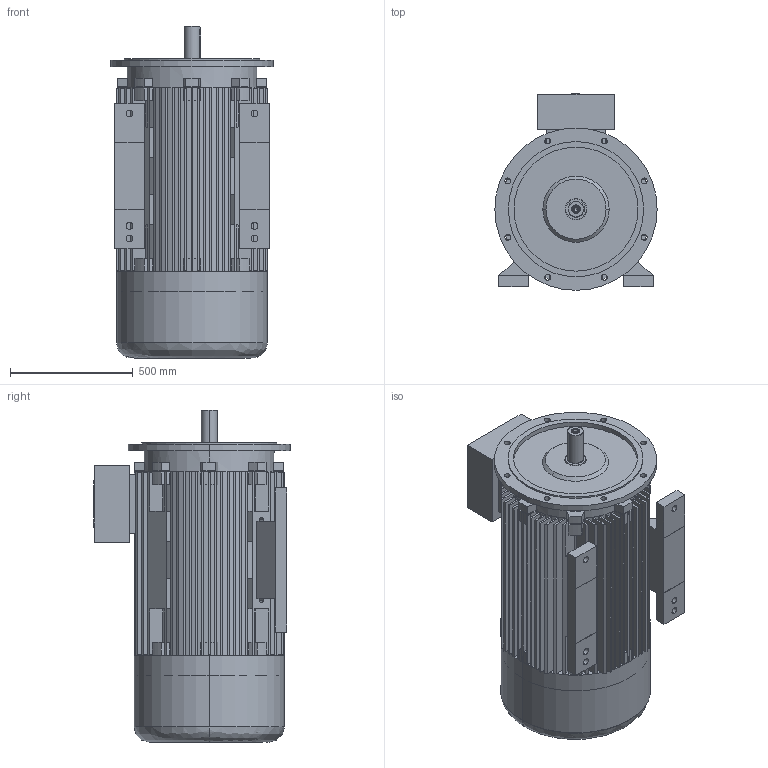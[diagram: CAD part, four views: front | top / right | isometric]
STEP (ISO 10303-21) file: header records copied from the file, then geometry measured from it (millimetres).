
FILE_DESCRIPTION (( 'STEP AP203' ), '1' );
FILE_NAME ('20.18382_C 7AZ 315LX -2 B35 STANDK.STEP', '2018-05-18T12:06:55', ( '' ), ( '' ), 'SwSTEP 2.0', 'SolidWorks 2017', '' );
FILE_SCHEMA (( 'CONFIG_CONTROL_DESIGN' ));
Length unit declared in the file: millimetre
Products named in the file (1): 20.18382_C 7AZ 315LX -2 B35 STANDK
Bounding box: 660 x 800 x 1350 mm (x, y, z)
Volume: 122246365.9 mm3; surface area: 11614845.5 mm2
Topology: 6 solids, 7 shells, 827 faces, 2222 edges, 1475 vertices
Faces by surface type: plane 663, cylinder 135, cone 16, bspline 13
Entity records: 26640 total; most frequent: CARTESIAN_POINT 5420, ORIENTED_EDGE 4440, DIRECTION 4312, EDGE_CURVE 2220, VECTOR 1682, LINE 1682, VERTEX_POINT 1475, AXIS2_PLACEMENT_3D 1315
